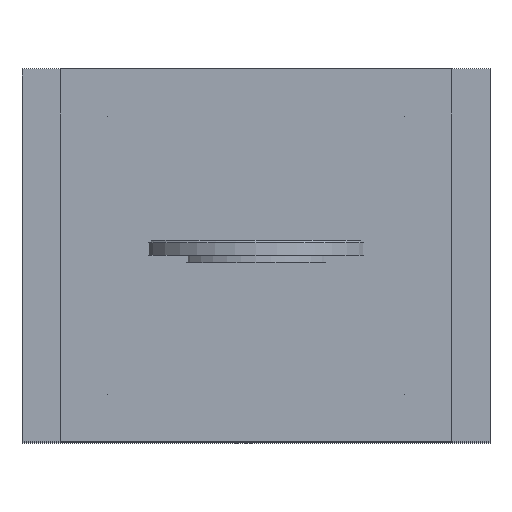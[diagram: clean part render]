
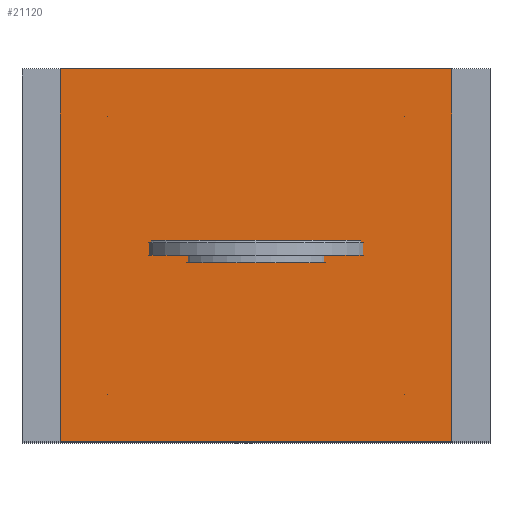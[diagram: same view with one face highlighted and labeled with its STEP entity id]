
A CAD part, top view. The second image highlights one B-rep face of the part: STEP entity #21120.
In plain terms, the highlighted planar face has unit normal (0, 0, 1).
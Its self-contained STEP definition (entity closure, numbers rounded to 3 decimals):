
#20806 = VERTEX_POINT('',#20807);
#20807 = CARTESIAN_POINT('',(-103.,-98.,402.));
#20814 = PLANE('',#20815);
#20815 = AXIS2_PLACEMENT_3D('',#20816,#20817,#20818);
#20816 = CARTESIAN_POINT('',(-103.,-98.,392.));
#20817 = DIRECTION('',(1.,0.,0.));
#20818 = DIRECTION('',(0.,0.,1.));
#20826 = PLANE('',#20827);
#20827 = AXIS2_PLACEMENT_3D('',#20828,#20829,#20830);
#20828 = CARTESIAN_POINT('',(-103.,-98.,392.));
#20829 = DIRECTION('',(0.,1.,0.));
#20830 = DIRECTION('',(0.,0.,1.));
#20867 = VERTEX_POINT('',#20868);
#20868 = CARTESIAN_POINT('',(-103.,98.,402.));
#20882 = PLANE('',#20883);
#20883 = AXIS2_PLACEMENT_3D('',#20884,#20885,#20886);
#20884 = CARTESIAN_POINT('',(-103.,98.,392.));
#20885 = DIRECTION('',(0.,1.,0.));
#20886 = DIRECTION('',(0.,0.,1.));
#20894 = EDGE_CURVE('',#20806,#20867,#20895,.T.);
#20895 = SURFACE_CURVE('',#20896,(#20900,#20907),.PCURVE_S1.);
#20896 = LINE('',#20897,#20898);
#20897 = CARTESIAN_POINT('',(-103.,-98.,402.));
#20898 = VECTOR('',#20899,1.);
#20899 = DIRECTION('',(0.,1.,0.));
#20900 = PCURVE('',#20814,#20901);
#20901 = DEFINITIONAL_REPRESENTATION('',(#20902),#20906);
#20902 = LINE('',#20903,#20904);
#20903 = CARTESIAN_POINT('',(10.,0.));
#20904 = VECTOR('',#20905,1.);
#20905 = DIRECTION('',(0.,-1.));
#20906 = ( GEOMETRIC_REPRESENTATION_CONTEXT(2) 
PARAMETRIC_REPRESENTATION_CONTEXT() REPRESENTATION_CONTEXT('2D SPACE',''
  ) );
#20907 = PCURVE('',#20908,#20913);
#20908 = PLANE('',#20909);
#20909 = AXIS2_PLACEMENT_3D('',#20910,#20911,#20912);
#20910 = CARTESIAN_POINT('',(-103.,-98.,402.));
#20911 = DIRECTION('',(0.,0.,1.));
#20912 = DIRECTION('',(1.,0.,0.));
#20913 = DEFINITIONAL_REPRESENTATION('',(#20914),#20918);
#20914 = LINE('',#20915,#20916);
#20915 = CARTESIAN_POINT('',(0.,0.));
#20916 = VECTOR('',#20917,1.);
#20917 = DIRECTION('',(0.,1.));
#20918 = ( GEOMETRIC_REPRESENTATION_CONTEXT(2) 
PARAMETRIC_REPRESENTATION_CONTEXT() REPRESENTATION_CONTEXT('2D SPACE',''
  ) );
#20926 = VERTEX_POINT('',#20927);
#20927 = CARTESIAN_POINT('',(103.,-98.,402.));
#20934 = PLANE('',#20935);
#20935 = AXIS2_PLACEMENT_3D('',#20936,#20937,#20938);
#20936 = CARTESIAN_POINT('',(103.,-98.,392.));
#20937 = DIRECTION('',(1.,0.,0.));
#20938 = DIRECTION('',(0.,0.,1.));
#20977 = VERTEX_POINT('',#20978);
#20978 = CARTESIAN_POINT('',(103.,98.,402.));
#20999 = EDGE_CURVE('',#20926,#20977,#21000,.T.);
#21000 = SURFACE_CURVE('',#21001,(#21005,#21012),.PCURVE_S1.);
#21001 = LINE('',#21002,#21003);
#21002 = CARTESIAN_POINT('',(103.,-98.,402.));
#21003 = VECTOR('',#21004,1.);
#21004 = DIRECTION('',(0.,1.,0.));
#21005 = PCURVE('',#20934,#21006);
#21006 = DEFINITIONAL_REPRESENTATION('',(#21007),#21011);
#21007 = LINE('',#21008,#21009);
#21008 = CARTESIAN_POINT('',(10.,0.));
#21009 = VECTOR('',#21010,1.);
#21010 = DIRECTION('',(0.,-1.));
#21011 = ( GEOMETRIC_REPRESENTATION_CONTEXT(2) 
PARAMETRIC_REPRESENTATION_CONTEXT() REPRESENTATION_CONTEXT('2D SPACE',''
  ) );
#21012 = PCURVE('',#20908,#21013);
#21013 = DEFINITIONAL_REPRESENTATION('',(#21014),#21018);
#21014 = LINE('',#21015,#21016);
#21015 = CARTESIAN_POINT('',(206.,0.));
#21016 = VECTOR('',#21017,1.);
#21017 = DIRECTION('',(0.,1.));
#21018 = ( GEOMETRIC_REPRESENTATION_CONTEXT(2) 
PARAMETRIC_REPRESENTATION_CONTEXT() REPRESENTATION_CONTEXT('2D SPACE',''
  ) );
#21045 = EDGE_CURVE('',#20806,#20926,#21046,.T.);
#21046 = SURFACE_CURVE('',#21047,(#21051,#21058),.PCURVE_S1.);
#21047 = LINE('',#21048,#21049);
#21048 = CARTESIAN_POINT('',(-103.,-98.,402.));
#21049 = VECTOR('',#21050,1.);
#21050 = DIRECTION('',(1.,0.,0.));
#21051 = PCURVE('',#20826,#21052);
#21052 = DEFINITIONAL_REPRESENTATION('',(#21053),#21057);
#21053 = LINE('',#21054,#21055);
#21054 = CARTESIAN_POINT('',(10.,0.));
#21055 = VECTOR('',#21056,1.);
#21056 = DIRECTION('',(0.,1.));
#21057 = ( GEOMETRIC_REPRESENTATION_CONTEXT(2) 
PARAMETRIC_REPRESENTATION_CONTEXT() REPRESENTATION_CONTEXT('2D SPACE',''
  ) );
#21058 = PCURVE('',#20908,#21059);
#21059 = DEFINITIONAL_REPRESENTATION('',(#21060),#21064);
#21060 = LINE('',#21061,#21062);
#21061 = CARTESIAN_POINT('',(0.,0.));
#21062 = VECTOR('',#21063,1.);
#21063 = DIRECTION('',(1.,0.));
#21064 = ( GEOMETRIC_REPRESENTATION_CONTEXT(2) 
PARAMETRIC_REPRESENTATION_CONTEXT() REPRESENTATION_CONTEXT('2D SPACE',''
  ) );
#21092 = EDGE_CURVE('',#20867,#20977,#21093,.T.);
#21093 = SURFACE_CURVE('',#21094,(#21098,#21105),.PCURVE_S1.);
#21094 = LINE('',#21095,#21096);
#21095 = CARTESIAN_POINT('',(-103.,98.,402.));
#21096 = VECTOR('',#21097,1.);
#21097 = DIRECTION('',(1.,0.,0.));
#21098 = PCURVE('',#20882,#21099);
#21099 = DEFINITIONAL_REPRESENTATION('',(#21100),#21104);
#21100 = LINE('',#21101,#21102);
#21101 = CARTESIAN_POINT('',(10.,0.));
#21102 = VECTOR('',#21103,1.);
#21103 = DIRECTION('',(0.,1.));
#21104 = ( GEOMETRIC_REPRESENTATION_CONTEXT(2) 
PARAMETRIC_REPRESENTATION_CONTEXT() REPRESENTATION_CONTEXT('2D SPACE',''
  ) );
#21105 = PCURVE('',#20908,#21106);
#21106 = DEFINITIONAL_REPRESENTATION('',(#21107),#21111);
#21107 = LINE('',#21108,#21109);
#21108 = CARTESIAN_POINT('',(0.,196.));
#21109 = VECTOR('',#21110,1.);
#21110 = DIRECTION('',(1.,0.));
#21111 = ( GEOMETRIC_REPRESENTATION_CONTEXT(2) 
PARAMETRIC_REPRESENTATION_CONTEXT() REPRESENTATION_CONTEXT('2D SPACE',''
  ) );
#21120 = ADVANCED_FACE('',(#21121),#20908,.T.);
#21121 = FACE_BOUND('',#21122,.T.);
#21122 = EDGE_LOOP('',(#21123,#21124,#21125,#21126));
#21123 = ORIENTED_EDGE('',*,*,#20894,.F.);
#21124 = ORIENTED_EDGE('',*,*,#21045,.T.);
#21125 = ORIENTED_EDGE('',*,*,#20999,.T.);
#21126 = ORIENTED_EDGE('',*,*,#21092,.F.);
